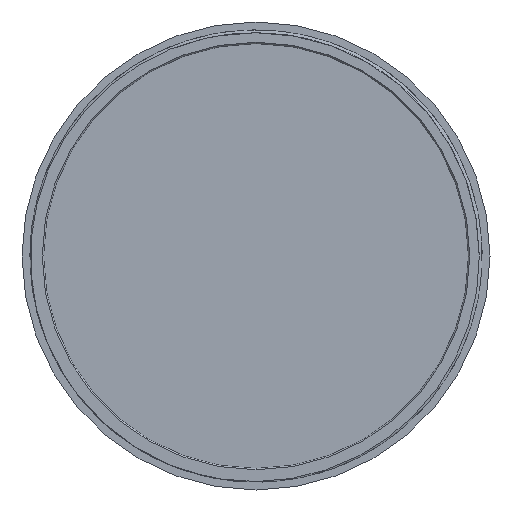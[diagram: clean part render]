
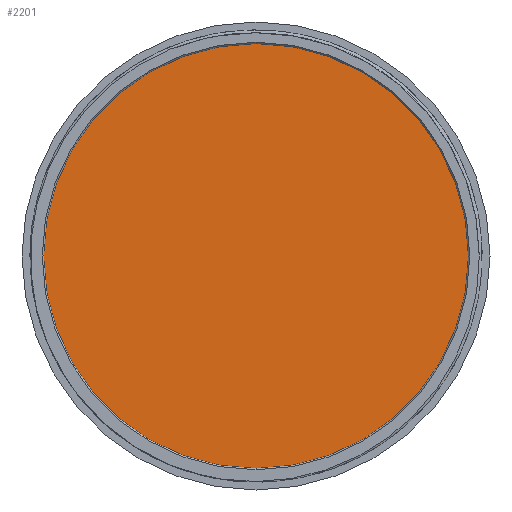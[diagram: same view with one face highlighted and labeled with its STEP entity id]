
A CAD part, front view. The second image highlights one B-rep face of the part: STEP entity #2201.
In plain terms, the highlighted planar face has unit normal (0, -1, 0).
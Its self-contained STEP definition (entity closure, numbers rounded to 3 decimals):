
#87 = CARTESIAN_POINT ( 'NONE',  ( 0., 2.5, 0. ) ) ;
#160 = VERTEX_POINT ( 'NONE', #515 ) ;
#220 = EDGE_CURVE ( 'NONE', #1968, #160, #628, .T. ) ;
#326 = DIRECTION ( 'NONE',  ( 0., 1., 0. ) ) ;
#346 = ORIENTED_EDGE ( 'NONE', *, *, #220, .F. ) ;
#371 = EDGE_CURVE ( 'NONE', #160, #1968, #1284, .T. ) ;
#515 = CARTESIAN_POINT ( 'NONE',  ( 0., 2.5, -41.15 ) ) ;
#540 = AXIS2_PLACEMENT_3D ( 'NONE', #2811, #2829, #920 ) ;
#628 = CIRCLE ( 'NONE', #1078, 41.15 ) ;
#920 = DIRECTION ( 'NONE',  ( 0., 0., 1. ) ) ;
#1029 = DIRECTION ( 'NONE',  ( 0., 0., 1. ) ) ;
#1078 = AXIS2_PLACEMENT_3D ( 'NONE', #87, #326, #1029 ) ;
#1284 = CIRCLE ( 'NONE', #3033, 41.15 ) ;
#1644 = CARTESIAN_POINT ( 'NONE',  ( 0., 2.5, 41.15 ) ) ;
#1652 = DIRECTION ( 'NONE',  ( 0., 1., 0. ) ) ;
#1968 = VERTEX_POINT ( 'NONE', #1644 ) ;
#2097 = CARTESIAN_POINT ( 'NONE',  ( 0., 2.5, 0. ) ) ;
#2138 = DIRECTION ( 'NONE',  ( 0., 0., 1. ) ) ;
#2201 = ADVANCED_FACE ( 'NONE', ( #3072 ), #2577, .F. ) ;
#2373 = EDGE_LOOP ( 'NONE', ( #3023, #346 ) ) ;
#2577 = PLANE ( 'NONE',  #540 ) ;
#2811 = CARTESIAN_POINT ( 'NONE',  ( 0., 2.5, 0. ) ) ;
#2829 = DIRECTION ( 'NONE',  ( 0., 1., 0. ) ) ;
#3023 = ORIENTED_EDGE ( 'NONE', *, *, #371, .F. ) ;
#3033 = AXIS2_PLACEMENT_3D ( 'NONE', #2097, #1652, #2138 ) ;
#3072 = FACE_OUTER_BOUND ( 'NONE', #2373, .T. ) ;
